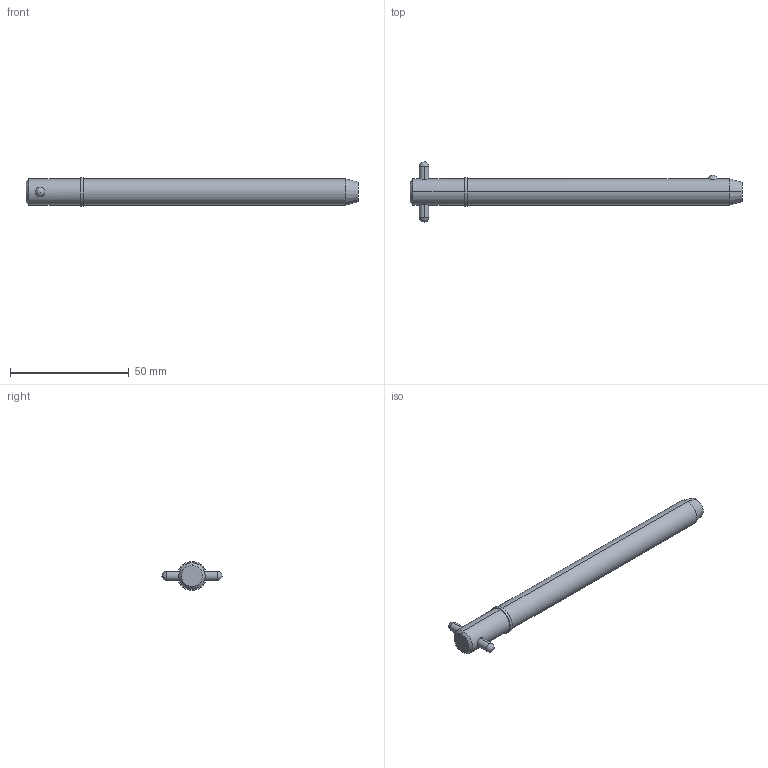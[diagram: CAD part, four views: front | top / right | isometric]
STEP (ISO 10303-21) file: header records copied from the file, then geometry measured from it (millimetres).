
FILE_DESCRIPTION (( 'STEP AP203' ), '1' );
FILE_NAME ('33018.W4340.step', '2024-11-19T17:13:32', ( '' ), ( '' ), 'SwSTEP 2.0', 'SolidWorks 2019', '' );
FILE_SCHEMA (( 'CONFIG_CONTROL_DESIGN' ));
Length unit declared in the file: millimetre
Products named in the file (3): 33018.W4340; Part1_33018.W4340; Part2_33018.W4340
Assembly tree (2 placements, depth 2):
  33018.W4340
    Part1_33018.W4340
    Part2_33018.W4340
Bounding box: 140 x 25.4 x 12.22 mm (x, y, z)
Volume: 13633.4 mm3; surface area: 5474.5 mm2
Topology: 2 solids, 2 shells, 22 faces, 47 edges, 30 vertices
Faces by surface type: cylinder 10, sphere 4, cone 4, plane 4
Entity records: 1031 total; most frequent: CARTESIAN_POINT 274, DIRECTION 110, ORIENTED_EDGE 82, AXIS2_PLACEMENT_3D 48, EDGE_CURVE 41, EDGE_LOOP 27, VERTEX_POINT 26, PERSON_AND_ORGANIZATION 26
